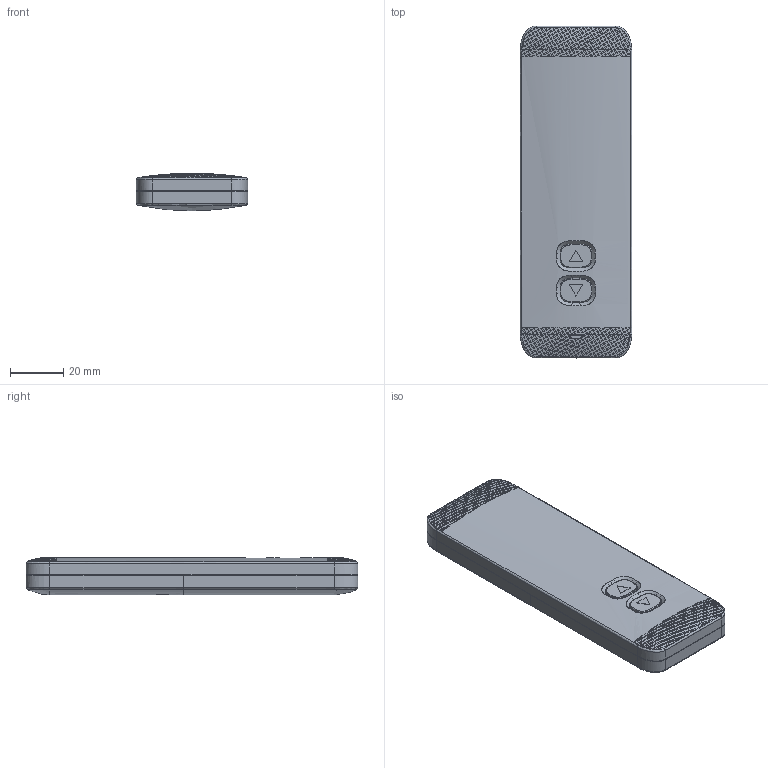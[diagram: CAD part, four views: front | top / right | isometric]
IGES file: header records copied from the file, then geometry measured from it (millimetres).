
Start section: SolidWorks IGES file using analytic representation for surfaces
Global section: file name: C:\Users\lynn\Desktop\TX02\tx02.igs; native system: SolidWorks 2020; preprocessor: SolidWorks 2020; author: lynn; date: 220311.143325; units: millimetre
Bounding box: 42 x 125 x 14.1 mm (x, y, z)
Surface area: 17639.2 mm2 (no closed solid volume)
Topology: 0 solids, 0 shells, 2358 faces, 14153 edges, 14148 vertices
Faces by surface type: bspline 2172, revolution 186
